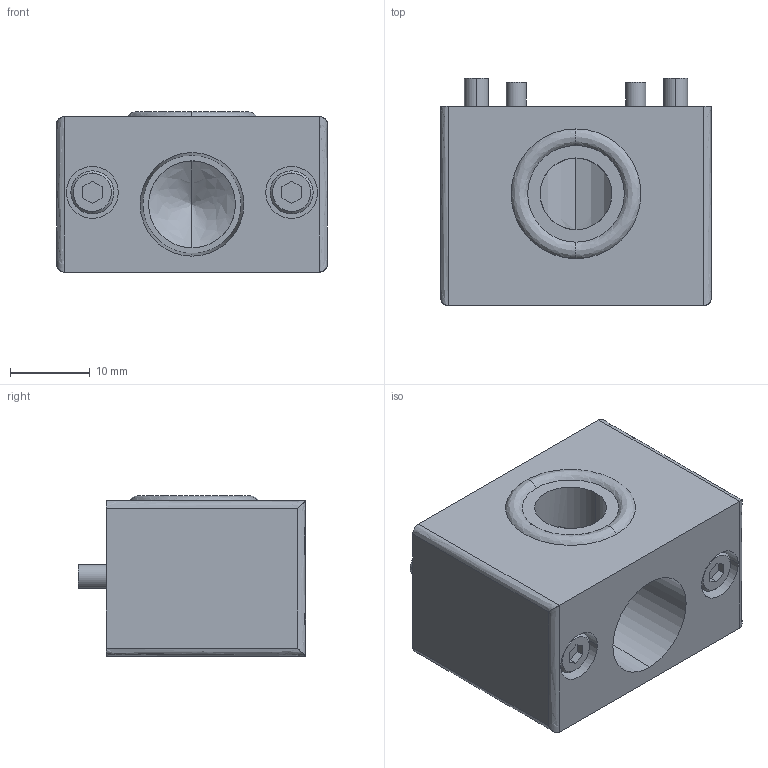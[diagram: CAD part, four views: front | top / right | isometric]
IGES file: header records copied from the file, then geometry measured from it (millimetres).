
Start section: 3D InterOp IGES (v. 2022 1.0.0), Spatial Corp. Copyright (c) 1999-2020.
Global section: file name: KHB-7~25HS-EP81_ver1.igs; native system: Spatial Corp.; preprocessor: 3D InterOp GENERIC/IGES 3.0; author: Noname; organization: Noname; date: 20260427.105745; units: millimetre
Bounding box: 34 x 28.5 x 20.1 mm (x, y, z)
Surface area: 5994.9 mm2 (no closed solid volume)
Topology: 0 solids, 0 shells, 84 faces, 368 edges, 366 vertices
Faces by surface type: revolution 48, extrusion 36
